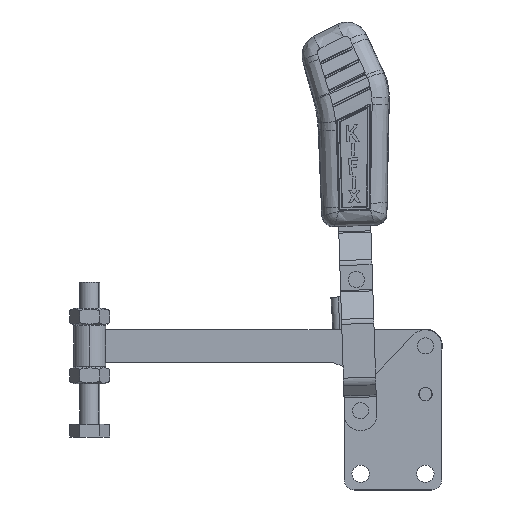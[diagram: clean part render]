
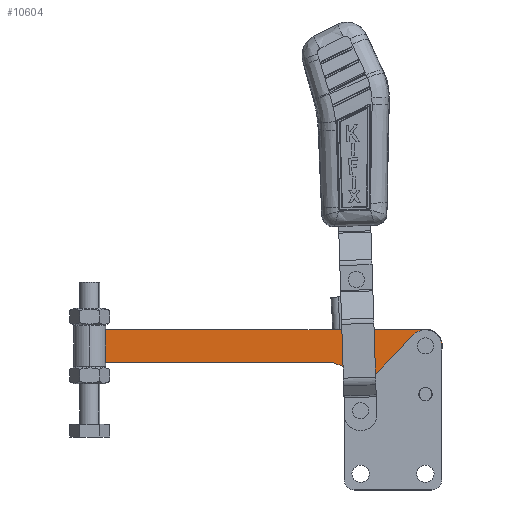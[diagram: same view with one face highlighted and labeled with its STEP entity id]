
A CAD part, top view. The second image highlights one B-rep face of the part: STEP entity #10604.
In plain terms, the highlighted planar face has unit normal (0, 0, 1).
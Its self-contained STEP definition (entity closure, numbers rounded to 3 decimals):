
#134 = CARTESIAN_POINT ( 'NONE',  ( -157.667, 0., 0. ) ) ;
#154 = DIRECTION ( 'NONE',  ( 1., 0., 0. ) ) ;
#814 = FACE_OUTER_BOUND ( 'NONE', #14290, .T. ) ;
#1974 = DIRECTION ( 'NONE',  ( 1., 0., 0. ) ) ;
#1995 = ORIENTED_EDGE ( 'NONE', *, *, #14878, .T. ) ;
#2354 = DIRECTION ( 'NONE',  ( 0., 0., 1. ) ) ;
#2572 = AXIS2_PLACEMENT_3D ( 'NONE', #14536, #3657, #16368 ) ;
#2690 = EDGE_CURVE ( 'NONE', #14994, #19535, #9955, .T. ) ;
#2906 = ORIENTED_EDGE ( 'NONE', *, *, #8005, .T. ) ;
#3370 = LINE ( 'NONE', #19578, #8245 ) ;
#3657 = DIRECTION ( 'NONE',  ( 0., 0., 1. ) ) ;
#3679 = CARTESIAN_POINT ( 'NONE',  ( 0., 8., 0. ) ) ;
#4030 = EDGE_CURVE ( 'NONE', #7283, #22046, #7131, .T. ) ;
#4071 = ORIENTED_EDGE ( 'NONE', *, *, #11618, .F. ) ;
#4400 = VERTEX_POINT ( 'NONE', #5108 ) ;
#4581 = AXIS2_PLACEMENT_3D ( 'NONE', #134, #12894, #1974 ) ;
#5108 = CARTESIAN_POINT ( 'NONE',  ( -160., 8., 0. ) ) ;
#5474 = LINE ( 'NONE', #6648, #19384 ) ;
#5499 = DIRECTION ( 'NONE',  ( 1., 0., 0. ) ) ;
#6195 = ORIENTED_EDGE ( 'NONE', *, *, #11423, .T. ) ;
#6551 = VECTOR ( 'NONE', #5499, 1000. ) ;
#6648 = CARTESIAN_POINT ( 'NONE',  ( 0., 8., 0. ) ) ;
#6801 = VERTEX_POINT ( 'NONE', #10344 ) ;
#7131 = LINE ( 'NONE', #10833, #6551 ) ;
#7283 = VERTEX_POINT ( 'NONE', #15784 ) ;
#8005 = EDGE_CURVE ( 'NONE', #6801, #4400, #18101, .T. ) ;
#8245 = VECTOR ( 'NONE', #12290, 1000. ) ;
#8597 = EDGE_CURVE ( 'NONE', #17082, #19864, #16058, .T. ) ;
#9071 = DIRECTION ( 'NONE',  ( 0., 0., 1. ) ) ;
#9453 = CARTESIAN_POINT ( 'NONE',  ( -125.667, 0., 0. ) ) ;
#9499 = CIRCLE ( 'NONE', #19586, 3.2 ) ;
#9594 = ORIENTED_EDGE ( 'NONE', *, *, #8597, .F. ) ;
#9955 = CIRCLE ( 'NONE', #23630, 3.2 ) ;
#10199 = CARTESIAN_POINT ( 'NONE',  ( -157.667, 0., 0. ) ) ;
#10342 = CARTESIAN_POINT ( 'NONE',  ( -128.867, 0., 0. ) ) ;
#10344 = CARTESIAN_POINT ( 'NONE',  ( -112., 8., 0. ) ) ;
#10604 = ADVANCED_FACE ( 'NONE', ( #19611, #14204, #814 ), #13274, .T. ) ;
#10833 = CARTESIAN_POINT ( 'NONE',  ( -160., -8., 0. ) ) ;
#10919 = ORIENTED_EDGE ( 'NONE', *, *, #19445, .T. ) ;
#11091 = DIRECTION ( 'NONE',  ( 0., 0., 1. ) ) ;
#11117 = CARTESIAN_POINT ( 'NONE',  ( -122.467, 0., 0. ) ) ;
#11274 = DIRECTION ( 'NONE',  ( 1., 0., 0. ) ) ;
#11281 = ORIENTED_EDGE ( 'NONE', *, *, #2690, .F. ) ;
#11423 = EDGE_CURVE ( 'NONE', #22046, #19539, #3370, .T. ) ;
#11618 = EDGE_CURVE ( 'NONE', #19535, #14994, #15021, .T. ) ;
#12032 = DIRECTION ( 'NONE',  ( 1., 0., 0. ) ) ;
#12290 = DIRECTION ( 'NONE',  ( 0., 1., 0. ) ) ;
#12713 = ORIENTED_EDGE ( 'NONE', *, *, #20301, .F. ) ;
#12894 = DIRECTION ( 'NONE',  ( 0., 0., 1. ) ) ;
#13089 = EDGE_LOOP ( 'NONE', ( #9594, #12713 ) ) ;
#13241 = CIRCLE ( 'NONE', #4581, 8.333 ) ;
#13274 = PLANE ( 'NONE',  #23354 ) ;
#13950 = EDGE_LOOP ( 'NONE', ( #4071, #11281 ) ) ;
#14204 = FACE_BOUND ( 'NONE', #13089, .T. ) ;
#14290 = EDGE_LOOP ( 'NONE', ( #6195, #10919, #2906, #1995, #18128 ) ) ;
#14536 = CARTESIAN_POINT ( 'NONE',  ( -136., -37., 0. ) ) ;
#14878 = EDGE_CURVE ( 'NONE', #4400, #7283, #13241, .T. ) ;
#14994 = VERTEX_POINT ( 'NONE', #20494 ) ;
#15008 = CARTESIAN_POINT ( 'NONE',  ( -157.667, 0., 0. ) ) ;
#15021 = CIRCLE ( 'NONE', #15879, 3.2 ) ;
#15088 = DIRECTION ( 'NONE',  ( 1., 0., 0. ) ) ;
#15784 = CARTESIAN_POINT ( 'NONE',  ( -160., -8., 0. ) ) ;
#15879 = AXIS2_PLACEMENT_3D ( 'NONE', #21965, #11091, #154 ) ;
#16058 = CIRCLE ( 'NONE', #19203, 3.2 ) ;
#16368 = DIRECTION ( 'NONE',  ( 1., 0., 0. ) ) ;
#17082 = VERTEX_POINT ( 'NONE', #11117 ) ;
#17536 = DIRECTION ( 'NONE',  ( -1., 0., 0. ) ) ;
#18101 = CIRCLE ( 'NONE', #2572, 51. ) ;
#18128 = ORIENTED_EDGE ( 'NONE', *, *, #4030, .T. ) ;
#18746 = CARTESIAN_POINT ( 'NONE',  ( 0., -8., 0. ) ) ;
#19203 = AXIS2_PLACEMENT_3D ( 'NONE', #19929, #9071, #21758 ) ;
#19384 = VECTOR ( 'NONE', #17536, 1000. ) ;
#19445 = EDGE_CURVE ( 'NONE', #19539, #6801, #5474, .T. ) ;
#19535 = VERTEX_POINT ( 'NONE', #23555 ) ;
#19539 = VERTEX_POINT ( 'NONE', #3679 ) ;
#19578 = CARTESIAN_POINT ( 'NONE',  ( 0., -8., 0. ) ) ;
#19586 = AXIS2_PLACEMENT_3D ( 'NONE', #9453, #22152, #11274 ) ;
#19611 = FACE_BOUND ( 'NONE', #13950, .T. ) ;
#19864 = VERTEX_POINT ( 'NONE', #10342 ) ;
#19929 = CARTESIAN_POINT ( 'NONE',  ( -125.667, 0., 0. ) ) ;
#20301 = EDGE_CURVE ( 'NONE', #19864, #17082, #9499, .T. ) ;
#20494 = CARTESIAN_POINT ( 'NONE',  ( -160.867, 0., 0. ) ) ;
#21758 = DIRECTION ( 'NONE',  ( 1., 0., 0. ) ) ;
#21965 = CARTESIAN_POINT ( 'NONE',  ( -157.667, 0., 0. ) ) ;
#22046 = VERTEX_POINT ( 'NONE', #18746 ) ;
#22152 = DIRECTION ( 'NONE',  ( 0., 0., 1. ) ) ;
#22914 = DIRECTION ( 'NONE',  ( 0., 0., 1. ) ) ;
#23354 = AXIS2_PLACEMENT_3D ( 'NONE', #15008, #2354, #15088 ) ;
#23555 = CARTESIAN_POINT ( 'NONE',  ( -154.467, 0., 0. ) ) ;
#23630 = AXIS2_PLACEMENT_3D ( 'NONE', #10199, #22914, #12032 ) ;
